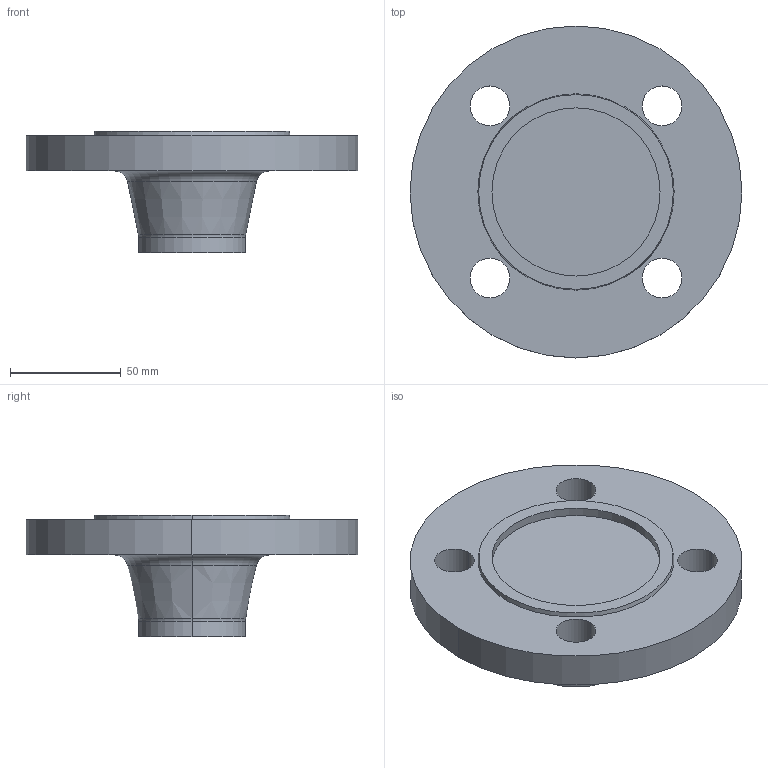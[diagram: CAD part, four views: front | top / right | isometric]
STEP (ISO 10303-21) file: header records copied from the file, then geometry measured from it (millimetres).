
FILE_DESCRIPTION (( 'STEP AP214' ), '1' );
FILE_NAME ('PN40 DN40 Type 21(ii) - Type F Face.STEP', '2018-12-30T01:21:40', ( '' ), ( '' ), 'SwSTEP 2.0', 'SolidWorks 2019', '' );
FILE_SCHEMA (( 'AUTOMOTIVE_DESIGN' ));
Length unit declared in the file: millimetre
Products named in the file (1): PN40 DN40 Type 21(ii) - Type F Face
Bounding box: 150 x 150 x 55 mm (x, y, z)
Volume: 343634.4 mm3; surface area: 50849.6 mm2
Topology: 1 solids, 1 shells, 27 faces, 60 edges, 38 vertices
Faces by surface type: cylinder 14, plane 5, torus 4, cone 4
Entity records: 818 total; most frequent: DIRECTION 158, CARTESIAN_POINT 126, ORIENTED_EDGE 120, AXIS2_PLACEMENT_3D 70, EDGE_CURVE 60, CIRCLE 42, VERTEX_POINT 38, EDGE_LOOP 38
